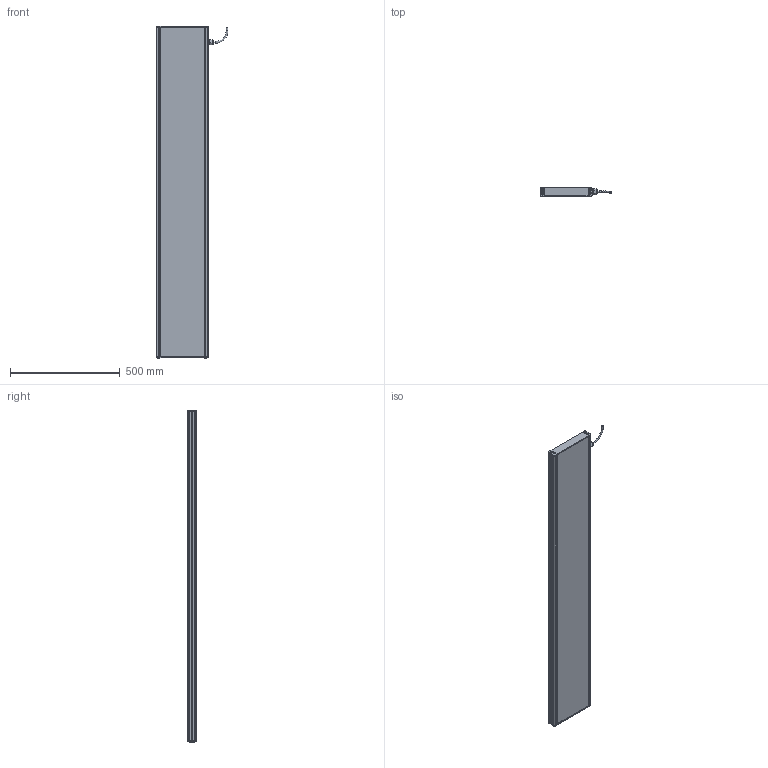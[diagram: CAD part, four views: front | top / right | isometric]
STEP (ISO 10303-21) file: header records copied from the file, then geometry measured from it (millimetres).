
FILE_DESCRIPTION (( 'STEP AP214' ), '1' );
FILE_NAME ('EFFI-BL-200-1500T-1M12P.STEP', '2021-07-02T09:52:43', ( '' ), ( '' ), 'SwSTEP 2.0', 'SolidWorks 2021', '' );
FILE_SCHEMA (( 'AUTOMOTIVE_DESIGN' ));
Length unit declared in the file: millimetre
Products named in the file (7): M12 power; EFFI-BL-200-1500T-1M12P; 003776; profile modif_lg 99.5 mm; Pièce2^EFFI-BL-XXX-YYYT + M12P; bord fin modif_lg 436.5 mm
Assembly tree (14 placements, depth 2):
  EFFI-BL-200-1500T-1M12P
    bord fin modif_lg 436.5 mm  x2
    profile modif_lg 99.5 mm
    Pièce2^EFFI-BL-XXX-YYYT + M12P
    profile modif_lg 99.5 mm
    M12 power
    003776  x8
Bounding box: 326.45 x 40 x 1510 mm (x, y, z)
Volume: 12259829.5 mm3; surface area: 1197924 mm2
Topology: 13 solids, 16 shells, 568 faces, 1441 edges, 923 vertices
Faces by surface type: plane 327, bspline 125, cylinder 94, cone 18, torus 4
Entity records: 15235 total; most frequent: CARTESIAN_POINT 5059, ORIENTED_EDGE 2014, DIRECTION 1715, EDGE_CURVE 1009, LINE 755, VECTOR 755, VERTEX_POINT 666, AXIS2_PLACEMENT_3D 480
